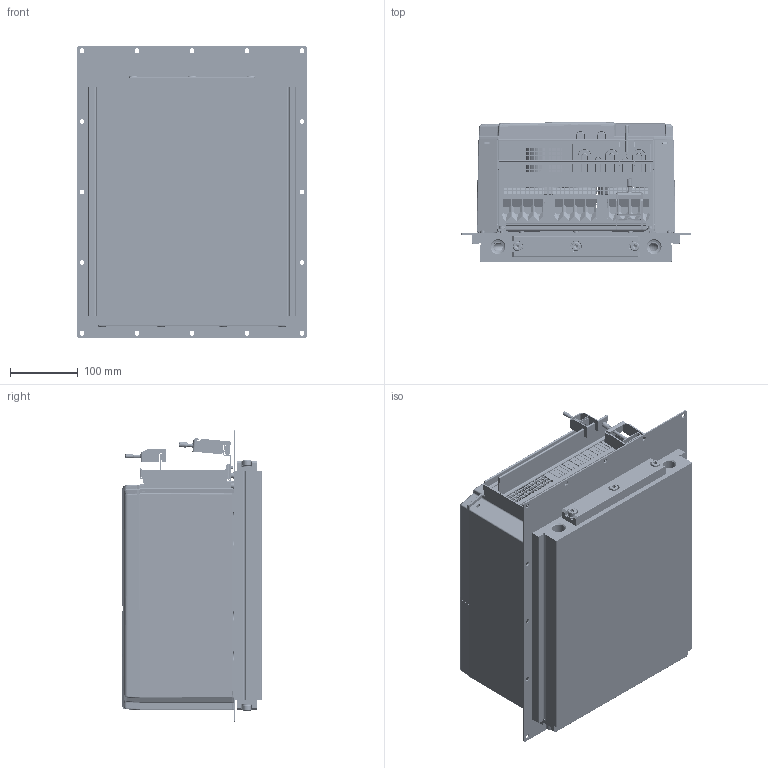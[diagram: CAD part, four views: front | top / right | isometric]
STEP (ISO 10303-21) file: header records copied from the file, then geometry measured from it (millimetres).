
FILE_DESCRIPTION (( 'STEP AP214' ), '1' );
FILE_NAME ('H1F5T0W-D000 KEB-COMBIVERT.STEP', '2009-11-04T07:59:47', ( 'KEB' ), ( 'Karl E. Brinkmann GmbH' ), 'SwSTEP 2.0', 'SolidWorks 2007', '' );
FILE_SCHEMA (( 'AUTOMOTIVE_DESIGN' ));
Length unit declared in the file: millimetre
Products named in the file (1): H1F5T0W-D000 KEB-COMBIVERT
Bounding box: 340 x 205.58 x 430 mm (x, y, z)
Volume: 6916988.2 mm3; surface area: 2192155.9 mm2
Topology: 69 solids, 69 shells, 15574 faces, 42646 edges, 27805 vertices
Faces by surface type: plane 9372, cylinder 2509, bspline 2454, cone 866, torus 328, sphere 45
Entity records: 802003 total; most frequent: CARTESIAN_POINT 246206, ORIENTED_EDGE 84858, DIRECTION 69695, EDGE_CURVE 42429, VECTOR 30519, LINE 30519, VERTEX_POINT 27805, AXIS2_PLACEMENT_3D 19588
